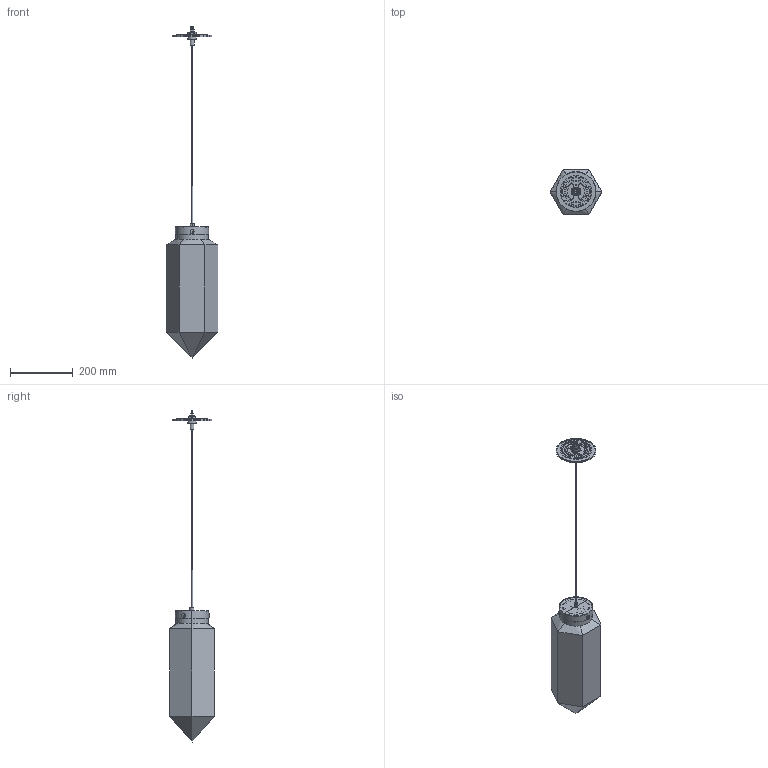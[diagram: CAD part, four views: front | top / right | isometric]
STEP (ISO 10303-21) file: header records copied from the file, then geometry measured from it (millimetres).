
FILE_DESCRIPTION(/* description */ (''),/* implementation_level */ '2;1');
FILE_NAME(/* name */ 'C:/Users/zach/Niche/Product Development - Documents/CAD Models/Pendants/Constellation Collection/Facet Series/Facet Grand/Glass - Low Voltage Hardware/Niche - Facet Grand Pendant.step',/* time_stamp */ '2022-09-02T10:50:18-04:00',/* author */ (''),/* organization */ (''),/* preprocessor_version */ 'ST-DEVELOPER v19',/* originating_system */ 'Autodesk Translation Framework v11.7.0.108',/* authorisation */ '');
FILE_SCHEMA (('AUTOMOTIVE_DESIGN { 1 0 10303 214 3 1 1 }'));
Length unit declared in the file: inch
Products named in the file (2): Facet Grand; Facet Grand_1
Assembly tree (1 placements, depth 2):
  Facet Grand
    Facet Grand_1
Bounding box: 165.1 x 142.98 x 1059.87 mm (x, y, z)
Volume: 771875.6 mm3; surface area: 497641.3 mm2
Topology: 29 solids, 29 shells, 750 faces, 1825 edges, 1190 vertices
Faces by surface type: plane 435, cylinder 198, bspline 83, cone 33, torus 1
Full cylindrical faces by diameter (mm): 0.571 x2, 1.016 x2, 1.778 x2, 2.032 x1, 2.54 x4, 2.794 x1, 3.302 x7, 3.556 x4, 3.81 x5, 4.064 x3, 4.826 x1, 5.08 x2, 5.461 x1, 6.096 x3, 7.6 x3, 8.128 x1, 8.89 x2, 9.312 x4, 10.16 x2, 12.7 x4, 13.97 x1, 18.923 x1, 19.558 x1, 22.86 x2, 24.13 x1, 26.924 x1, 28.194 x2, 82.55 x1, 101.6 x2, 125.476 x1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
Entity records: 27736 total; most frequent: CARTESIAN_POINT 10472, ORIENTED_EDGE 3646, DIRECTION 3231, EDGE_CURVE 1823, VERTEX_POINT 1190, LINE 1091, VECTOR 1091, AXIS2_PLACEMENT_3D 1070
